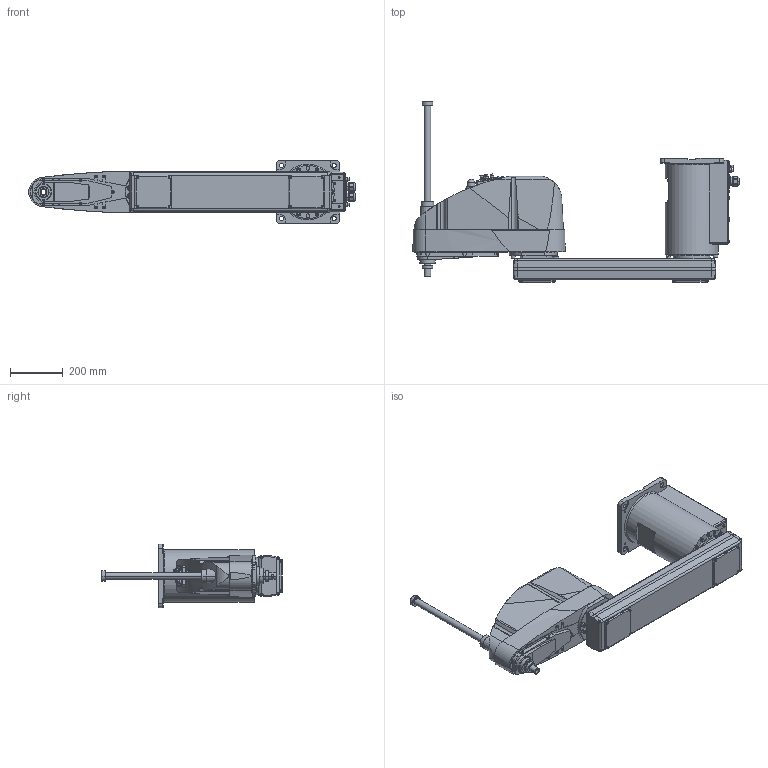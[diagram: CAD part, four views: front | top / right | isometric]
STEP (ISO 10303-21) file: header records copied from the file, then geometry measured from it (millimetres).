
FILE_DESCRIPTION( ( '' ), '1' );
FILE_NAME( '//expscmdclustefs.cadenas.external/client_exchange/iodir/jobs/output/wkb51493215_no0/STEP/G20_A04SR_2_14b.stp', '2012-11-22T09:38:47', ( '' ), ( '' ), ' ', ' ', ' ' );
FILE_SCHEMA( ( 'automotive_design' ) );
Length unit declared in the file: millimetre
Products named in the file (4): 1; 2; 3; 4
Bounding box: 1234.5 x 681.5 x 240 mm (x, y, z)
Volume: 42389939.6 mm3; surface area: 1468962.3 mm2
Topology: 4 solids, 5 shells, 1775 faces, 4308 edges, 2796 vertices
Faces by surface type: plane 990, cylinder 573, cone 188, torus 23, sphere 1
Entity records: 102779 total; most frequent: CARTESIAN_POINT 10266, DIRECTION 9168, STYLED_ITEM 8871, PRESENTATION_STYLE_ASSIGNMENT 8871, COLOUR_RGB 8871, ORIENTED_EDGE 8592, EDGE_CURVE 4296, CURVE_STYLE 4296
